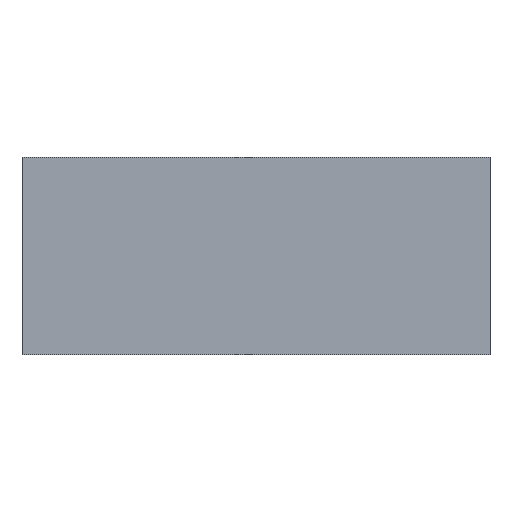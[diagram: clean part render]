
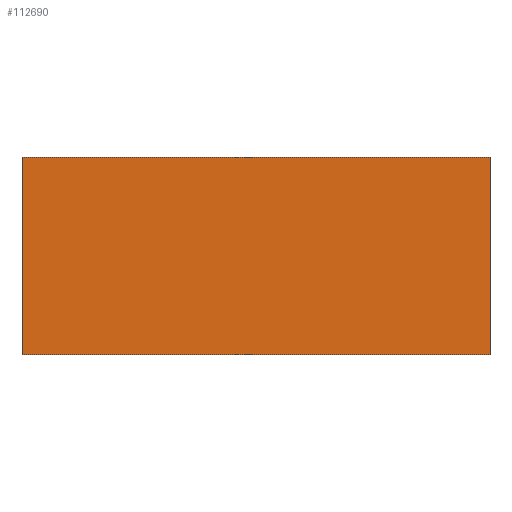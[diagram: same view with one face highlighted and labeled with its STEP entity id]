
A CAD part, front view. The second image highlights one B-rep face of the part: STEP entity #112690.
In plain terms, the highlighted planar face has unit normal (0, -1, 0).
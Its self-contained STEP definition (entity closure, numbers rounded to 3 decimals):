
#810=CARTESIAN_POINT('',(137.312,180.943,7.747));
#820=DIRECTION('',(-1.,0.,0.));
#830=VECTOR('',#820,1.);
#840=LINE('',#810,#830);
#850=CARTESIAN_POINT('',(-81.103,180.943,7.747));
#860=VERTEX_POINT('',#850);
#870=CARTESIAN_POINT('',(-116.028,180.943,7.747));
#880=VERTEX_POINT('',#870);
#890=EDGE_CURVE('',#860,#880,#840,.T.);
#7160=CARTESIAN_POINT('',(-334.444,180.943,22.479));
#7170=DIRECTION('',(1.,0.,0.));
#7180=VECTOR('',#7170,1.);
#7190=LINE('',#7160,#7180);
#7200=CARTESIAN_POINT('',(-116.028,180.943,22.479));
#7210=VERTEX_POINT('',#7200);
#7220=CARTESIAN_POINT('',(-81.103,180.943,22.479));
#7230=VERTEX_POINT('',#7220);
#7240=EDGE_CURVE('',#7210,#7230,#7190,.T.);
#14590=CARTESIAN_POINT('',(-116.028,180.943,3.81));
#14600=DIRECTION('',(0.,0.,1.));
#14610=VECTOR('',#14600,1.);
#14620=LINE('',#14590,#14610);
#14630=EDGE_CURVE('',#880,#7210,#14620,.T.);
#85350=CARTESIAN_POINT('',(-81.103,180.943,3.81));
#85360=DIRECTION('',(0.,0.,-1.));
#85370=VECTOR('',#85360,1.);
#85380=LINE('',#85350,#85370);
#85390=EDGE_CURVE('',#7230,#860,#85380,.T.);
#112580=CARTESIAN_POINT('',(-81.103,180.943,3.81));
#112590=DIRECTION('',(0.,-1.,0.));
#112600=DIRECTION('',(1.,0.,0.));
#112610=AXIS2_PLACEMENT_3D('',#112580,#112590,#112600);
#112620=PLANE('',#112610);
#112630=ORIENTED_EDGE('',*,*,#14630,.F.);
#112640=ORIENTED_EDGE('',*,*,#7240,.F.);
#112650=ORIENTED_EDGE('',*,*,#85390,.F.);
#112660=ORIENTED_EDGE('',*,*,#890,.F.);
#112670=EDGE_LOOP('',(#112660,#112650,#112640,#112630));
#112680=FACE_OUTER_BOUND('',#112670,.T.);
#112690=ADVANCED_FACE('',(#112680),#112620,.T.);
